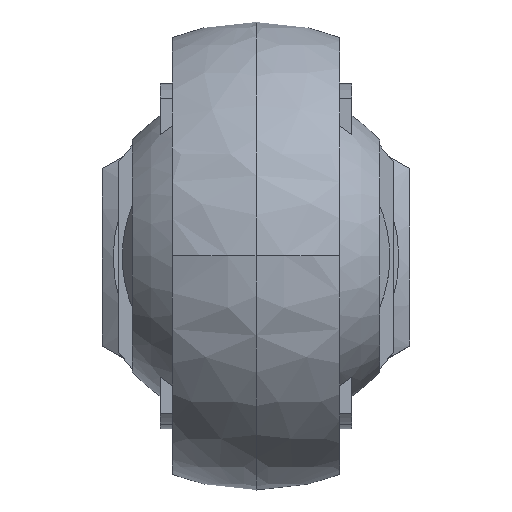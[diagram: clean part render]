
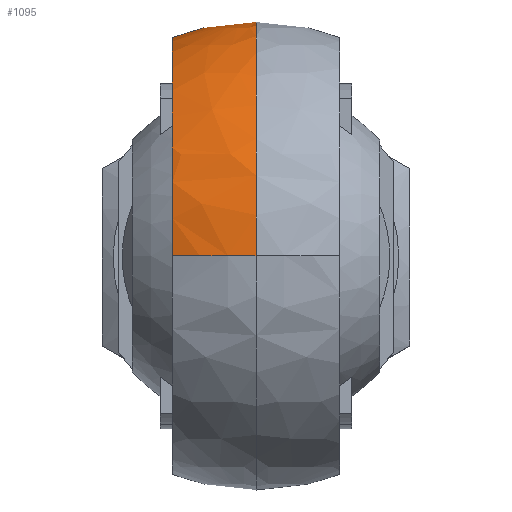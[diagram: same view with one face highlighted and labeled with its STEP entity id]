
A CAD part, top view. The second image highlights one B-rep face of the part: STEP entity #1095.
In plain terms, the highlighted spherical face has radius 35 mm.
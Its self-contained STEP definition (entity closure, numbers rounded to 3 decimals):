
#8 = CIRCLE ( 'NONE', #1819, 28.67 ) ;
#15 = ORIENTED_EDGE ( 'NONE', *, *, #643, .T. ) ;
#17 = CARTESIAN_POINT ( 'NONE',  ( 0., 0., 308.425 ) ) ;
#60 = CIRCLE ( 'NONE', #173, 32.692 ) ;
#64 = DIRECTION ( 'NONE',  ( 0., 0., -1. ) ) ;
#173 = AXIS2_PLACEMENT_3D ( 'NONE', #1507, #1316, #2370 ) ;
#178 = AXIS2_PLACEMENT_3D ( 'NONE', #1591, #64, #1790 ) ;
#255 = AXIS2_PLACEMENT_3D ( 'NONE', #2292, #2538, #595 ) ;
#294 = EDGE_CURVE ( 'NONE', #1307, #1542, #577, .T. ) ;
#524 = VERTEX_POINT ( 'NONE', #1465 ) ;
#539 = CARTESIAN_POINT ( 'NONE',  ( -12.5, 0., 361.192 ) ) ;
#577 = CIRCLE ( 'NONE', #178, 28.67 ) ;
#595 = DIRECTION ( 'NONE',  ( 0., 0., 1. ) ) ;
#615 = AXIS2_PLACEMENT_3D ( 'NONE', #2680, #2031, #2267 ) ;
#643 = EDGE_CURVE ( 'NONE', #1307, #2700, #60, .T. ) ;
#645 = DIRECTION ( 'NONE',  ( 0., 1., 0. ) ) ;
#700 = SPHERICAL_SURFACE ( 'NONE', #615, 35. ) ;
#889 = ORIENTED_EDGE ( 'NONE', *, *, #1490, .F. ) ;
#1006 = AXIS2_PLACEMENT_3D ( 'NONE', #1572, #1082, #2004 ) ;
#1070 = FACE_OUTER_BOUND ( 'NONE', #2529, .T. ) ;
#1082 = DIRECTION ( 'NONE',  ( 0., 1., 0. ) ) ;
#1095 = ADVANCED_FACE ( 'NONE', ( #1070 ), #700, .T. ) ;
#1228 = VERTEX_POINT ( 'NONE', #1736 ) ;
#1307 = VERTEX_POINT ( 'NONE', #1393 ) ;
#1316 = DIRECTION ( 'NONE',  ( 1., 0., 0. ) ) ;
#1393 = CARTESIAN_POINT ( 'NONE',  ( -12.5, 25.802, 308.425 ) ) ;
#1465 = CARTESIAN_POINT ( 'NONE',  ( 0., 28.67, 308.425 ) ) ;
#1490 = EDGE_CURVE ( 'NONE', #1542, #524, #8, .T. ) ;
#1507 = CARTESIAN_POINT ( 'NONE',  ( -12.5, 0., 328.5 ) ) ;
#1542 = VERTEX_POINT ( 'NONE', #2047 ) ;
#1561 = ORIENTED_EDGE ( 'NONE', *, *, #2074, .T. ) ;
#1572 = CARTESIAN_POINT ( 'NONE',  ( 0., 0., 328.5 ) ) ;
#1591 = CARTESIAN_POINT ( 'NONE',  ( 0., 0., 308.425 ) ) ;
#1625 = CIRCLE ( 'NONE', #255, 35. ) ;
#1736 = CARTESIAN_POINT ( 'NONE',  ( 0., 0., 363.5 ) ) ;
#1790 = DIRECTION ( 'NONE',  ( 0., 1., 0. ) ) ;
#1819 = AXIS2_PLACEMENT_3D ( 'NONE', #17, #2368, #645 ) ;
#2004 = DIRECTION ( 'NONE',  ( 0., 0., 1. ) ) ;
#2031 = DIRECTION ( 'NONE',  ( 0., -1., 0. ) ) ;
#2047 = CARTESIAN_POINT ( 'NONE',  ( -9.495, 27.052, 308.425 ) ) ;
#2062 = CIRCLE ( 'NONE', #1006, 35. ) ;
#2074 = EDGE_CURVE ( 'NONE', #2700, #1228, #2062, .T. ) ;
#2126 = ORIENTED_EDGE ( 'NONE', *, *, #2445, .T. ) ;
#2267 = DIRECTION ( 'NONE',  ( 0., 0., 1. ) ) ;
#2274 = ORIENTED_EDGE ( 'NONE', *, *, #294, .F. ) ;
#2292 = CARTESIAN_POINT ( 'NONE',  ( 0., 0., 328.5 ) ) ;
#2368 = DIRECTION ( 'NONE',  ( 0., 0., -1. ) ) ;
#2370 = DIRECTION ( 'NONE',  ( 0., 0., -1. ) ) ;
#2445 = EDGE_CURVE ( 'NONE', #1228, #524, #1625, .T. ) ;
#2529 = EDGE_LOOP ( 'NONE', ( #15, #1561, #2126, #889, #2274 ) ) ;
#2538 = DIRECTION ( 'NONE',  ( -1., 0., 0. ) ) ;
#2680 = CARTESIAN_POINT ( 'NONE',  ( 0., 0., 328.5 ) ) ;
#2700 = VERTEX_POINT ( 'NONE', #539 ) ;
